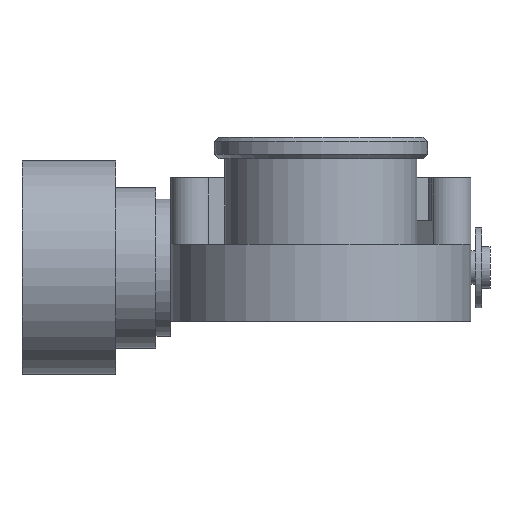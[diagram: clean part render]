
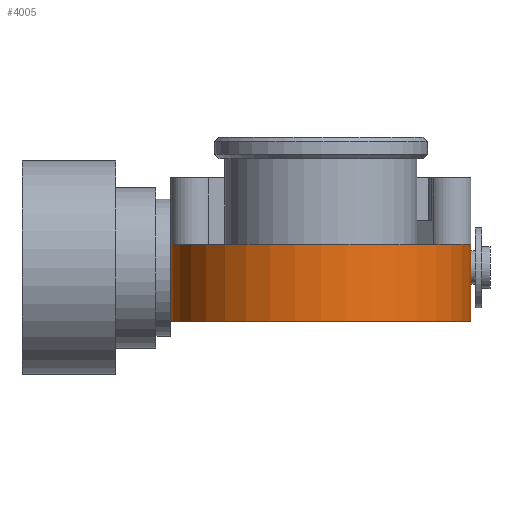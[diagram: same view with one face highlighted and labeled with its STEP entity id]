
A CAD part, left-side view. The second image highlights one B-rep face of the part: STEP entity #4005.
In plain terms, the highlighted cylindrical face has radius 8.89 mm (diameter 17.78 mm), a partial arc.
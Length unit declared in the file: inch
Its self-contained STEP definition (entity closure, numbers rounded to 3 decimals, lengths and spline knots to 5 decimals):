
#2898=CARTESIAN_POINT('',(16.20967,-14.77289,-6.319));
#2899=VERTEX_POINT('',#2898);
#2935=CARTESIAN_POINT('',(16.20967,-14.07289,-6.319));
#2936=VERTEX_POINT('',#2935);
#2943=CARTESIAN_POINT('',(16.20967,-14.42289,-6.319));
#2944=DIRECTION('',(0.0,0.0,-1.0));
#2945=DIRECTION('',(1.0,0.0,0.0));
#2946=AXIS2_PLACEMENT_3D('',#2943,#2944,#2945);
#2947=CIRCLE('',#2946,0.35);
#2948=EDGE_CURVE('',#2899,#2936,#2947,.T.);
#3059=CARTESIAN_POINT('',(16.20967,-14.07289,-6.499));
#3060=VERTEX_POINT('',#3059);
#3067=CARTESIAN_POINT('',(16.20967,-14.07289,-6.499));
#3068=DIRECTION('',(0.0,0.0,1.0));
#3069=VECTOR('',#3068,0.18);
#3070=LINE('',#3067,#3069);
#3071=EDGE_CURVE('',#3060,#2936,#3070,.T.);
#3892=CARTESIAN_POINT('',(16.20967,-14.77289,-6.499));
#3893=VERTEX_POINT('',#3892);
#3894=CARTESIAN_POINT('',(16.20967,-14.77289,-6.499));
#3895=DIRECTION('',(0.0,0.0,1.0));
#3896=VECTOR('',#3895,0.18);
#3897=LINE('',#3894,#3896);
#3898=EDGE_CURVE('',#3893,#2899,#3897,.T.);
#3944=CARTESIAN_POINT('',(16.20967,-14.42289,-6.499));
#3945=DIRECTION('',(0.0,0.0,1.0));
#3946=DIRECTION('',(1.0,0.0,0.0));
#3947=AXIS2_PLACEMENT_3D('',#3944,#3945,#3946);
#3948=CIRCLE('',#3947,0.35);
#3949=EDGE_CURVE('',#3060,#3893,#3948,.T.);
#3994=CARTESIAN_POINT('',(16.20967,-14.42289,-6.4515));
#3995=DIRECTION('',(0.,0.,1.0));
#3996=DIRECTION('',(1.0,0.0,0.0));
#3997=AXIS2_PLACEMENT_3D('',#3994,#3995,#3996);
#3998=CYLINDRICAL_SURFACE('',#3997,0.35);
#3999=ORIENTED_EDGE('',*,*,#2948,.T.);
#4000=ORIENTED_EDGE('',*,*,#3071,.F.);
#4001=ORIENTED_EDGE('',*,*,#3949,.T.);
#4002=ORIENTED_EDGE('',*,*,#3898,.T.);
#4003=EDGE_LOOP('',(#3999,#4000,#4001,#4002));
#4004=FACE_OUTER_BOUND('',#4003,.T.);
#4005=ADVANCED_FACE('',(#4004),#3998,.T.);
